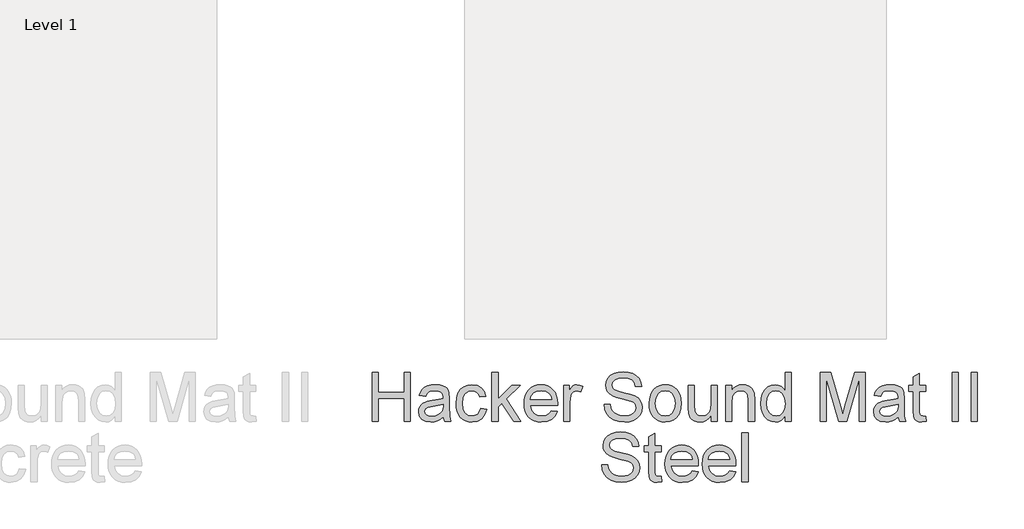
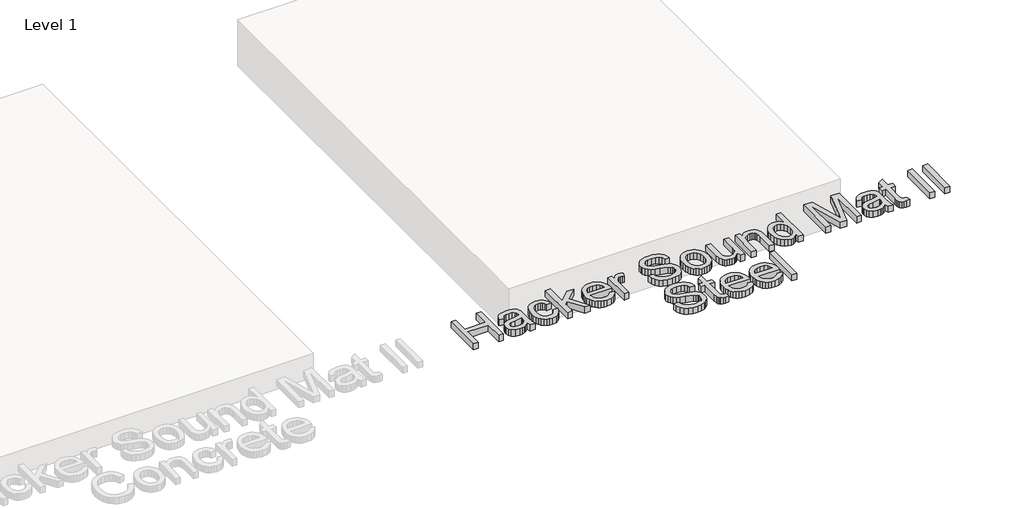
# One storey, part 3 of 3: 1 proxy.
"""IFC4 building model written with IfcOpenShell, lengths in millimetres."""

from ifc_helpers import new_model, si_unit, origin, origin_with_axes, place, context, project, spatial, polyline, outline, extrude, element, save

model = new_model("IFC4")

# Units and contexts
model_context = context("Model", 3, world=origin())
ifc_project = project(units=[si_unit("LENGTHUNIT", "METRE", prefix="MILLI")], contexts=[model_context])

# Site, building, storey
site = spatial("IfcSite", under=ifc_project)
building = spatial("IfcBuilding", under=site)
storey = spatial("IfcBuildingStorey", under=building, Name="Level 1", Elevation=0.0)

# Proxy
placement = place(None, origin())
element("IfcBuildingElementProxy", 1, Name="600mm Arial", ObjectType="600mm Arial", at=placement, inside=storey, context=model_context, shape_type="SweptSolid", body=[
    extrude(outline(polyline([(11235.1560774, -15959.6490726), (11235.1560774, -15659.5383034), (11272.6699235, -15659.5383034), (11272.6699235, -15781.4583034), (11432.1037697, -15781.4583034), (11432.1037697, -15659.5383034), (11469.6176159, -15659.5383034), (11469.6176159, -15959.6490726), (11432.1037697, -15959.6490726), (11432.1037697, -15818.9721496), (11272.6699235, -15818.9721496), (11272.6699235, -15959.6490726), (11235.1560774, -15959.6490726)])), origin_with_axes(), (0.0, 0.0, 1.0), 50.8),
    extrude(outline(polyline([(11671.2545389, -15931.513688), (11653.3310534, -15946.8819092), (11634.8763659, -15956.9381111), (11615.4691784, -15962.4882553), (11594.6881928, -15964.3383034), (11563.3381207, -15959.8871976), (11540.2125197, -15946.5338803), (11525.9524957, -15926.2566207), (11521.1991543, -15901.033688), (11522.9942505, -15885.4822938), (11528.3795389, -15871.3596496), (11536.686438, -15859.2702265), (11547.2463659, -15849.8184957), (11573.5133851, -15837.5092649), (11605.9716543, -15831.8675342), (11644.3280966, -15825.9327265), (11671.0347312, -15818.9721496), (11671.2545389, -15810.6194572), (11668.6717985, -15793.877438), (11660.9235774, -15782.923688), (11643.5954043, -15774.7908034), (11619.4531928, -15772.0798419), (11597.1060774, -15773.8840967), (11581.4997312, -15779.2968611), (11570.8573755, -15789.3072697), (11563.4022312, -15804.9044572), (11525.8883851, -15800.2152265), (11532.400188, -15779.6998419), (11542.1175197, -15763.5806111), (11555.947087, -15751.253063), (11574.7955966, -15742.1127265), (11597.8479284, -15736.4526784), (11624.288962, -15734.5659957), (11649.6492745, -15736.2328707), (11669.7525197, -15741.2334957), (11684.9100918, -15748.7527505), (11695.4333851, -15757.9755149), (11702.4122793, -15769.378039), (11706.9366543, -15783.4365726), (11708.7683851, -15816.261188), (11708.7683851, -15862.933688), (11710.6733851, -15928.1066688), (11718.1468466, -15959.6490726), (11680.6330005, -15959.6490726), (11671.2545389, -15931.513688)]), holes=[polyline([(11671.2545389, -15856.4859957), (11610.7341543, -15867.9892649), (11578.4590582, -15874.0706111), (11563.8418466, -15883.9619572), (11558.7130005, -15898.3959957), (11561.5063899, -15909.5512361), (11569.8865582, -15918.6915726), (11583.6703322, -15924.7912361), (11602.6745389, -15926.8244572), (11622.8235774, -15924.5805871), (11640.6280005, -15917.8489765), (11655.0620389, -15907.9301544), (11665.0999235, -15896.1246496), (11669.5510293, -15883.9619572), (11671.0347312, -15867.1100342), (11671.2545389, -15856.4859957)])]), origin_with_axes(), (0.0, 0.0, 1.0), 50.8),
    extrude(outline(polyline([(11901.0268466, -15879.9321496), (11938.5406928, -15884.6213803), (11928.0815101, -15917.9863563), (11908.4270389, -15943.2001303), (11881.4273274, -15959.0537601), (11848.9324235, -15964.3383034), (11827.892706, -15962.4951243), (11809.0281687, -15956.9655871), (11792.3388118, -15947.7496916), (11777.8246351, -15934.847438), (11766.0763719, -15918.5015306), (11757.6847553, -15898.9546736), (11752.6497853, -15876.2068671), (11750.971462, -15850.2581111), (11753.8381207, -15816.8748178), (11762.4380966, -15787.9426303), (11776.9087697, -15764.5789044), (11797.3875197, -15747.9009957), (11821.8869187, -15737.8997457), (11848.4195389, -15734.5659957), (11880.1176399, -15739.1453226), (11905.4596351, -15752.8833034), (11923.639563, -15775.0472457), (11933.851462, -15804.9044572), (11896.3376159, -15809.593688), (11889.532736, -15793.2271736), (11878.9361735, -15781.494938), (11865.1340822, -15774.4336159), (11848.7126159, -15772.0798419), (11824.4696591, -15776.7141207), (11805.2273274, -15790.6169572), (11792.670813, -15814.5393611), (11788.4853082, -15849.2323419), (11792.5792264, -15884.392414), (11804.8609812, -15908.3972457), (11823.7552841, -15922.2176544), (11847.6868466, -15926.8244572), (11867.1123514, -15923.9486399), (11883.0392505, -15915.321188), (11894.6249476, -15900.7222938), (11901.0268466, -15879.9321496)])), origin_with_axes(), (0.0, 0.0, 1.0), 50.8),
    extrude(outline(polyline([(11971.3653082, -15959.6490726), (11971.3653082, -15659.5383034), (12008.8791543, -15659.5383034), (12008.8791543, -15820.8038803), (12092.9922312, -15739.2552265), (12144.8668466, -15739.2552265), (12059.7280005, -15821.8296496), (12149.5560774, -15959.6490726), (12105.7410774, -15959.6490726), (12032.8381928, -15847.9134957), (12008.8791543, -15871.1398419), (12008.8791543, -15959.6490726), (11971.3653082, -15959.6490726)])), origin_with_axes(), (0.0, 0.0, 1.0), 50.8),
    extrude(outline(polyline([(12336.6856928, -15893.9998419), (12373.4668466, -15898.6890726), (12360.2142745, -15926.4031592), (12339.0669428, -15947.1200342), (12310.5011014, -15960.0337361), (12274.9930005, -15964.3383034), (12251.7162817, -15962.4813863), (12230.9765101, -15956.9106351), (12212.7736856, -15947.6260498), (12197.1078082, -15934.6276303), (12184.5100798, -15918.2771435), (12175.5117024, -15898.9363563), (12170.112676, -15876.6052685), (12168.3130005, -15851.2838803), (12170.1309933, -15825.1038683), (12175.5849716, -15802.0286399), (12184.6749356, -15782.0581952), (12197.4008851, -15765.1925342), (12213.0255485, -15751.7934236), (12230.8116543, -15742.2226303), (12250.7592024, -15736.4801544), (12272.8681928, -15734.5659957), (12294.2650978, -15736.475575), (12313.6150437, -15742.204313), (12330.9180305, -15751.7522096), (12346.1740582, -15765.1192649), (12358.6275377, -15781.9482914), (12367.5228803, -15801.8821015), (12372.8600858, -15824.9206952), (12374.6391543, -15851.0640726), (12374.4193466, -15861.1752265), (12205.8268466, -15861.1752265), (12212.3203322, -15889.2556592), (12227.4046351, -15909.8992649), (12249.1747553, -15922.5931592), (12275.7256928, -15926.8244572), (12295.6915582, -15924.8645053), (12312.5068466, -15918.9846496), (12326.1715582, -15908.8185438), (12336.6856928, -15893.9998419)]), holes=[polyline([(12205.8268466, -15823.6613803), (12337.1253082, -15823.6613803), (12332.0514139, -15803.8420534), (12322.1051159, -15789.6644572), (12300.2342505, -15776.4759957), (12272.7216543, -15772.0798419), (12247.434611, -15775.5876063), (12226.5254043, -15786.1108996), (12211.9906207, -15802.5140486), (12205.8268466, -15823.6613803)])]), origin_with_axes(), (0.0, 0.0, 1.0), 50.8),
    extrude(outline(polyline([(12412.1530005, -15959.6490726), (12412.1530005, -15739.2552265), (12444.9776159, -15739.2552265), (12444.9776159, -15771.8600342), (12457.1036735, -15752.9565726), (12468.2772312, -15741.8196496), (12479.4874235, -15736.3794092), (12491.7233851, -15734.5659957), (12510.4070389, -15737.4601303), (12529.3837697, -15746.1425342), (12516.8547312, -15779.7731111), (12503.6662697, -15774.0031592), (12490.4778082, -15772.0798419), (12479.2767745, -15773.9298899), (12469.2663659, -15779.4800342), (12461.1792745, -15788.3089765), (12455.7481928, -15799.9954188), (12451.1871832, -15820.9504188), (12449.6668466, -15843.8104188), (12449.6668466, -15959.6490726), (12412.1530005, -15959.6490726)])), origin_with_axes(), (0.0, 0.0, 1.0), 50.8),
    extrude(outline(polyline([(12660.6822312, -15856.4859957), (12698.1960774, -15856.4859957), (12702.5006447, -15877.3036159), (12710.2855005, -15894.0364765), (12722.4298755, -15907.3165246), (12739.8130005, -15917.7757072), (12761.0610774, -15924.5622697), (12784.8003082, -15926.8244572), (12805.7003562, -15925.111789), (12823.9993466, -15919.9737842), (12838.8272072, -15911.8408996), (12849.3138659, -15901.1435919), (12855.5509091, -15888.8618371), (12857.6299235, -15875.9756111), (12856.0729524, -15863.4190967), (12851.4020389, -15852.5660919), (12841.9136735, -15843.3066928), (12825.9043466, -15835.5309957), (12771.2821351, -15821.2068611), (12735.4260053, -15811.7276544), (12712.4835774, -15802.7063803), (12693.8090822, -15790.0857553), (12680.5748274, -15774.7908034), (12672.6892264, -15757.1512361), (12670.0606928, -15737.4967649), (12673.3120149, -15715.5251544), (12683.0659812, -15695.0372457), (12699.0661495, -15677.672438), (12721.0560774, -15665.0701303), (12747.4513178, -15657.4043371), (12776.6674235, -15654.8490726), (12808.3197312, -15657.5233996), (12836.0155005, -15665.5463803), (12858.7655966, -15678.7531592), (12875.5808851, -15696.9788803), (12886.2232409, -15719.0878707), (12890.4545389, -15743.9444572), (12852.9406928, -15743.9444572), (12846.0533851, -15721.5607072), (12831.6926159, -15705.4048419), (12809.2539139, -15695.6233996), (12778.1328082, -15692.3629188), (12746.2790101, -15695.5867649), (12724.426462, -15705.2583034), (12711.7875197, -15719.4908515), (12707.5745389, -15736.3977265), (12710.5602601, -15750.8134476), (12719.5174235, -15762.4083034), (12740.6922312, -15772.7758996), (12780.7705005, -15783.3633034), (12822.1309812, -15793.4195053), (12847.1524235, -15802.1934957), (12868.5378803, -15815.8032553), (12883.4573274, -15832.6002265), (12892.2221591, -15852.4012361), (12895.1437697, -15875.0231111), (12891.7825437, -15898.1487121), (12881.6988659, -15919.9005149), (12865.3048755, -15938.6208034), (12843.012712, -15952.6518611), (12816.2053322, -15961.4166928), (12786.2656928, -15964.3383034), (12749.5120149, -15961.1877265), (12719.2609812, -15951.7359957), (12695.164563, -15935.9464765), (12676.8747312, -15913.7825342), (12665.133337, -15886.7828226), (12660.6822312, -15856.4859957)])), origin_with_axes(), (0.0, 0.0, 1.0), 50.8),
    extrude(outline(polyline([(12937.3468466, -15849.4521496), (12939.3754885, -15820.9092048), (12945.4614139, -15796.3136399), (12955.6046231, -15775.6654548), (12969.8051159, -15758.9646496), (12984.1017745, -15748.2902385), (12999.8821351, -15740.6656592), (13017.1461976, -15736.0909116), (13035.893962, -15734.5659957), (13056.59023, -15736.4229128), (13075.3036495, -15741.993664), (13092.0342204, -15751.2782493), (13106.7819428, -15764.2766688), (13118.8187036, -15780.549307), (13127.4163899, -15799.6565486), (13132.5750017, -15821.5983935), (13134.2945389, -15846.3748419), (13131.2538659, -15884.2733515), (13122.1318466, -15913.1231111), (13107.1940822, -15934.7283755), (13086.7061735, -15950.8933996), (13062.3716303, -15960.9770774), (13035.893962, -15964.3383034), (13014.8954584, -15962.4882553), (12996.0080245, -15956.9381111), (12979.2316603, -15947.6878707), (12964.5663659, -15934.7375342), (12952.6578262, -15918.3069092), (12944.1517264, -15898.6158034), (12939.0480666, -15875.6642169), (12937.3468466, -15849.4521496)]), holes=[polyline([(12974.8606928, -15849.3788803), (12979.2018947, -15883.3300101), (12992.2255005, -15907.5180149), (13011.8250197, -15921.9978467), (13035.893962, -15926.8244572), (13059.8530005, -15921.9703707), (13079.4158851, -15907.4081111), (13092.4394909, -15882.8995534), (13096.7806928, -15848.2065726), (13092.4120149, -15815.2445774), (13079.3059812, -15791.3862842), (13059.7156207, -15776.9064524), (13035.893962, -15772.0798419), (13011.8250197, -15776.8881351), (12992.2255005, -15791.3130149), (12979.2018947, -15815.4460678), (12974.8606928, -15849.3788803)])]), origin_with_axes(), (0.0, 0.0, 1.0), 50.8),
    extrude(outline(polyline([(13317.1745389, -15959.6490726), (13317.1745389, -15921.7688803), (13303.6014139, -15940.3930029), (13287.7935774, -15953.6959476), (13269.7510293, -15961.6777145), (13249.4737697, -15964.3383034), (13231.2022553, -15962.469938), (13214.1946351, -15956.8648419), (13199.9254524, -15948.4388803), (13189.8692505, -15938.1079188), (13178.6956928, -15910.4854188), (13176.4976159, -15875.6092649), (13176.4976159, -15739.2552265), (13214.011462, -15739.2552265), (13214.011462, -15857.9513803), (13216.2828082, -15896.1979188), (13221.7505245, -15908.9559236), (13231.1198274, -15918.654938), (13243.7679284, -15924.7820774), (13259.0720389, -15926.8244572), (13275.2553803, -15924.7362842), (13290.3946351, -15918.4717649), (13302.8778803, -15908.6078947), (13311.0931928, -15895.7216688), (13315.6542024, -15878.0729428), (13317.1745389, -15853.9215726), (13317.1745389, -15739.2552265), (13354.6883851, -15739.2552265), (13354.6883851, -15959.6490726), (13317.1745389, -15959.6490726)])), origin_with_axes(), (0.0, 0.0, 1.0), 50.8),
    extrude(outline(polyline([(13406.2699235, -15959.6490726), (13406.2699235, -15739.2552265), (13443.7837697, -15739.2552265), (13443.7837697, -15770.0283034), (13456.8165341, -15754.5135438), (13472.4686735, -15743.4315726), (13490.740188, -15736.7823899), (13511.6310774, -15734.5659957), (13530.1223995, -15736.3519332), (13547.0567505, -15741.7097457), (13561.1793947, -15749.9708515), (13571.2355966, -15760.4666688), (13582.4824235, -15788.0525342), (13584.4606928, -15824.3208034), (13584.4606928, -15959.6490726), (13546.9468466, -15959.6490726), (13546.9468466, -15829.3763803), (13542.623962, -15796.1854188), (13536.643361, -15786.3032313), (13527.3473274, -15778.637438), (13515.4319187, -15773.7192409), (13501.5931928, -15772.0798419), (13479.6215822, -15775.7616207), (13460.8921351, -15786.8069572), (13453.4072252, -15795.823652), (13448.060861, -15808.1466207), (13443.7837697, -15842.7113803), (13443.7837697, -15959.6490726), (13406.2699235, -15959.6490726)])), origin_with_axes(), (0.0, 0.0, 1.0), 50.8),
    extrude(outline(polyline([(13772.0299235, -15959.6490726), (13772.0299235, -15924.2600342), (13760.8059933, -15941.794277), (13747.2099716, -15954.3187361), (13731.2418586, -15961.8334116), (13712.9016543, -15964.3383034), (13688.6495389, -15960.7114765), (13666.448962, -15949.8309957), (13647.6554043, -15932.4570294), (13633.6243466, -15909.3497457), (13624.8869909, -15881.4433274), (13621.9745389, -15849.6719572), (13624.6580245, -15818.2944092), (13632.7084812, -15789.9575342), (13646.1167505, -15766.2732553), (13664.8736735, -15748.8534957), (13687.5596591, -15738.1378707), (13712.7551159, -15734.5659957), (13731.1090582, -15737.1212601), (13747.3381928, -15744.7870534), (13761.0944909, -15756.5376063), (13772.0299235, -15771.3471496), (13772.0299235, -15659.5383034), (13809.5437697, -15659.5383034), (13809.5437697, -15959.6490726), (13772.0299235, -15959.6490726)]), holes=[polyline([(13659.4883851, -15849.5254188), (13663.7196832, -15883.4582313), (13676.4135774, -15907.5912842), (13694.8591062, -15922.016164), (13716.3453082, -15926.8244572), (13737.8223514, -15922.2359717), (13755.8007889, -15908.4705149), (13767.9726399, -15885.2716447), (13772.0299235, -15852.3829188), (13767.8993707, -15816.4260438), (13755.507712, -15791.496188), (13737.0713418, -15776.9339284), (13714.8066543, -15772.0798419), (13693.1006447, -15776.7415967), (13675.3145389, -15790.7268611), (13663.4449235, -15814.7500101), (13659.4883851, -15849.5254188)])]), origin_with_axes(), (0.0, 0.0, 1.0), 50.8),
    extrude(outline(polyline([(13987.7345389, -15959.6490726), (13987.7345389, -15659.5383034), (14052.2847312, -15659.5383034), (14113.6843466, -15871.0665726), (14126.0668466, -15915.2479188), (14139.4751159, -15867.4031111), (14199.848962, -15659.5383034), (14264.3991543, -15659.5383034), (14264.3991543, -15959.6490726), (14226.8853082, -15959.6490726), (14226.8853082, -15697.0521496), (14151.4912697, -15959.6490726), (14100.6424235, -15959.6490726), (14025.2483851, -15697.0521496), (14025.2483851, -15959.6490726), (13987.7345389, -15959.6490726)])), origin_with_axes(), (0.0, 0.0, 1.0), 50.8),
    extrude(outline(polyline([(14466.0360774, -15931.513688), (14448.1125918, -15946.8819092), (14429.6579043, -15956.9381111), (14410.2507168, -15962.4882553), (14389.4697312, -15964.3383034), (14358.1196591, -15959.8871976), (14334.9940582, -15946.5338803), (14320.7340341, -15926.2566207), (14315.9806928, -15901.033688), (14317.7757889, -15885.4822938), (14323.1610774, -15871.3596496), (14331.4679764, -15859.2702265), (14342.0279043, -15849.8184957), (14368.2949235, -15837.5092649), (14400.7531928, -15831.8675342), (14439.1096351, -15825.9327265), (14465.8162697, -15818.9721496), (14466.0360774, -15810.6194572), (14463.453337, -15793.877438), (14455.7051159, -15782.923688), (14438.3769428, -15774.7908034), (14414.2347312, -15772.0798419), (14391.8876159, -15773.8840967), (14376.2812697, -15779.2968611), (14365.6389139, -15789.3072697), (14358.1837697, -15804.9044572), (14320.6699235, -15800.2152265), (14327.1817264, -15779.6998419), (14336.8990582, -15763.5806111), (14350.7286255, -15751.253063), (14369.5771351, -15742.1127265), (14392.6294668, -15736.4526784), (14419.0705005, -15734.5659957), (14444.430813, -15736.2328707), (14464.5340582, -15741.2334957), (14479.6916303, -15748.7527505), (14490.2149235, -15757.9755149), (14497.1938178, -15769.378039), (14501.7181928, -15783.4365726), (14503.5499235, -15816.261188), (14503.5499235, -15862.933688), (14505.4549235, -15928.1066688), (14512.9283851, -15959.6490726), (14475.4145389, -15959.6490726), (14466.0360774, -15931.513688)]), holes=[polyline([(14466.0360774, -15856.4859957), (14405.5156928, -15867.9892649), (14373.2405966, -15874.0706111), (14358.6233851, -15883.9619572), (14353.4945389, -15898.3959957), (14356.2879284, -15909.5512361), (14364.6680966, -15918.6915726), (14378.4518707, -15924.7912361), (14397.4560774, -15926.8244572), (14417.6051159, -15924.5805871), (14435.4095389, -15917.8489765), (14449.8435774, -15907.9301544), (14459.881462, -15896.1246496), (14464.3325678, -15883.9619572), (14465.8162697, -15867.1100342), (14466.0360774, -15856.4859957)])]), origin_with_axes(), (0.0, 0.0, 1.0), 50.8),
    extrude(outline(polyline([(14634.8483851, -15928.3631111), (14639.5376159, -15960.7481111), (14611.4755005, -15964.3383034), (14593.469587, -15962.7813322), (14580.0430005, -15958.1104188), (14570.5546351, -15950.9117169), (14564.3633851, -15941.7713803), (14560.9563659, -15926.0734476), (14559.8206928, -15899.2019572), (14559.8206928, -15776.7690726), (14531.6853082, -15776.7690726), (14531.6853082, -15739.2552265), (14559.8206928, -15739.2552265), (14559.8206928, -15685.6954188), (14597.3345389, -15663.6413803), (14597.3345389, -15739.2552265), (14634.8483851, -15739.2552265), (14634.8483851, -15776.7690726), (14597.3345389, -15776.7690726), (14597.3345389, -15898.1029188), (14599.3128082, -15917.4459957), (14605.7238659, -15924.2966688), (14618.5093466, -15926.8244572), (14634.8483851, -15928.3631111)])), origin_with_axes(), (0.0, 0.0, 1.0), 50.8),
    extrude(outline(polyline([(14798.971462, -15959.6490726), (14798.971462, -15659.5383034), (14836.4853082, -15659.5383034), (14836.4853082, -15959.6490726), (14798.971462, -15959.6490726)])), origin_with_axes(), (0.0, 0.0, 1.0), 50.8),
    extrude(outline(polyline([(14916.2022312, -15959.6490726), (14916.2022312, -15659.5383034), (14953.7160774, -15659.5383034), (14953.7160774, -15959.6490726), (14916.2022312, -15959.6490726)])), origin_with_axes(), (0.0, 0.0, 1.0), 50.8),
    extrude(outline(polyline([(12644.2699235, -16226.9352265), (12681.7837697, -16226.9352265), (12686.088337, -16247.7528467), (12693.8731928, -16264.4857072), (12706.0175678, -16277.7657553), (12723.4006928, -16288.224938), (12744.6487697, -16295.0115005), (12768.3880005, -16297.273688), (12789.2880485, -16295.5610197), (12807.5870389, -16290.4230149), (12822.4148995, -16282.2901303), (12832.9015582, -16271.5928226), (12839.1386014, -16259.3110678), (12841.2176159, -16246.4248419), (12839.6606447, -16233.8683274), (12834.9897312, -16223.0153226), (12825.5013659, -16213.7559236), (12809.4920389, -16205.9802265), (12754.8698274, -16191.6560919), (12719.0136976, -16182.1768851), (12696.0712697, -16173.1556111), (12677.3967745, -16160.5349861), (12664.1625197, -16145.2400342), (12656.2769187, -16127.6004669), (12653.6483851, -16107.9459957), (12656.8997072, -16085.9743851), (12666.6536735, -16065.4864765), (12682.6538418, -16048.1216688), (12704.6437697, -16035.5193611), (12731.0390101, -16027.8535678), (12760.2551159, -16025.2983034), (12791.9074235, -16027.9726303), (12819.6031928, -16035.9956111), (12842.3532889, -16049.2023899), (12859.1685774, -16067.4281111), (12869.8109332, -16089.5371015), (12874.0422312, -16114.393688), (12836.5283851, -16114.393688), (12829.6410774, -16092.009938), (12815.2803082, -16075.8540726), (12792.8416062, -16066.0726303), (12761.7205005, -16062.8121496), (12729.8667024, -16066.0359957), (12708.0141543, -16075.7075342), (12695.375212, -16089.9400822), (12691.1622312, -16106.8469572), (12694.1479524, -16121.2626784), (12703.1051159, -16132.8575342), (12724.2799235, -16143.2251303), (12764.3581928, -16153.8125342), (12805.7186735, -16163.8687361), (12830.7401159, -16172.6427265), (12852.1255726, -16186.2524861), (12867.0450197, -16203.0494572), (12875.8098514, -16222.8504669), (12878.731462, -16245.4723419), (12875.370236, -16268.5979428), (12865.2865582, -16290.3497457), (12848.8925678, -16309.0700342), (12826.6004043, -16323.1010919), (12799.7930245, -16331.8659236), (12769.8533851, -16334.7875342), (12733.0997072, -16331.6369572), (12702.8486735, -16322.1852265), (12678.7522553, -16306.3957072), (12660.4624235, -16284.2317649), (12648.7210293, -16257.2320534), (12644.2699235, -16226.9352265)])), origin_with_axes(), (0.0, 0.0, 1.0), 50.8),
    extrude(outline(polyline([(13010.0299235, -16298.8123419), (13014.7191543, -16331.1973419), (12986.6570389, -16334.7875342), (12968.6511255, -16333.230563), (12955.2245389, -16328.5596496), (12945.7361735, -16321.3609476), (12939.5449235, -16312.2206111), (12936.1379043, -16296.5226784), (12935.0022312, -16269.651188), (12935.0022312, -16147.2183034), (12906.8668466, -16147.2183034), (12906.8668466, -16109.7044572), (12935.0022312, -16109.7044572), (12935.0022312, -16056.1446496), (12972.5160774, -16034.0906111), (12972.5160774, -16109.7044572), (13010.0299235, -16109.7044572), (13010.0299235, -16147.2183034), (12972.5160774, -16147.2183034), (12972.5160774, -16268.5521496), (12974.4943466, -16287.8952265), (12980.9054043, -16294.7458996), (12993.6908851, -16297.273688), (13010.0299235, -16298.8123419)])), origin_with_axes(), (0.0, 0.0, 1.0), 50.8),
    extrude(outline(polyline([(13201.8487697, -16264.4490726), (13238.6299235, -16269.1383034), (13225.3773514, -16296.8523899), (13204.2300197, -16317.5692649), (13175.6641784, -16330.4829669), (13140.1560774, -16334.7875342), (13116.8793586, -16332.9306171), (13096.139587, -16327.3598659), (13077.9367625, -16318.0752806), (13062.2708851, -16305.0768611), (13049.6731567, -16288.7263743), (13040.6747793, -16269.3855871), (13035.2757529, -16247.0544993), (13033.4760774, -16221.7331111), (13035.2940702, -16195.5530991), (13040.7480485, -16172.4778707), (13049.8380125, -16152.507426), (13062.563962, -16135.6417649), (13078.1886255, -16122.2426544), (13095.9747312, -16112.6718611), (13115.9222793, -16106.9293851), (13138.0312697, -16105.0152265), (13159.4281747, -16106.9248058), (13178.7781207, -16112.6535438), (13196.0811074, -16122.2014404), (13211.3371351, -16135.5684957), (13223.7906147, -16152.3975221), (13232.6859572, -16172.3313322), (13238.0231627, -16195.369926), (13239.8022312, -16221.5133034), (13239.5824235, -16231.6244572), (13070.9899235, -16231.6244572), (13077.4834091, -16259.7048899), (13092.567712, -16280.3484957), (13114.3378322, -16293.0423899), (13140.8887697, -16297.273688), (13160.8546351, -16295.3137361), (13177.6699235, -16289.4338803), (13191.3346351, -16279.2677746), (13201.8487697, -16264.4490726)]), holes=[polyline([(13070.9899235, -16194.1106111), (13202.2883851, -16194.1106111), (13197.2144909, -16174.2912842), (13187.2681928, -16160.113688), (13165.3973274, -16146.9252265), (13137.8847312, -16142.5290726), (13112.597688, -16146.0368371), (13091.6884812, -16156.5601303), (13077.1536976, -16172.9632794), (13070.9899235, -16194.1106111)])]), origin_with_axes(), (0.0, 0.0, 1.0), 50.8),
    extrude(outline(polyline([(13431.6210774, -16264.4490726), (13468.4022312, -16269.1383034), (13455.1496591, -16296.8523899), (13434.0023274, -16317.5692649), (13405.436486, -16330.4829669), (13369.9283851, -16334.7875342), (13346.6516663, -16332.9306171), (13325.9118947, -16327.3598659), (13307.7090702, -16318.0752806), (13292.0431928, -16305.0768611), (13279.4454644, -16288.7263743), (13270.447087, -16269.3855871), (13265.0480606, -16247.0544993), (13263.2483851, -16221.7331111), (13265.0663779, -16195.5530991), (13270.5203562, -16172.4778707), (13279.6103202, -16152.507426), (13292.3362697, -16135.6417649), (13307.9609332, -16122.2426544), (13325.7470389, -16112.6718611), (13345.694587, -16106.9293851), (13367.8035774, -16105.0152265), (13389.2004824, -16106.9248058), (13408.5504284, -16112.6535438), (13425.8534151, -16122.2014404), (13441.1094428, -16135.5684957), (13453.5629223, -16152.3975221), (13462.4582649, -16172.3313322), (13467.7954704, -16195.369926), (13469.5745389, -16221.5133034), (13469.3547312, -16231.6244572), (13300.7622312, -16231.6244572), (13307.2557168, -16259.7048899), (13322.3400197, -16280.3484957), (13344.1101399, -16293.0423899), (13370.6610774, -16297.273688), (13390.6269428, -16295.3137361), (13407.4422312, -16289.4338803), (13421.1069428, -16279.2677746), (13431.6210774, -16264.4490726)]), holes=[polyline([(13300.7622312, -16194.1106111), (13432.0606928, -16194.1106111), (13426.9867985, -16174.2912842), (13417.0405005, -16160.113688), (13395.1696351, -16146.9252265), (13367.6570389, -16142.5290726), (13342.3699957, -16146.0368371), (13321.4607889, -16156.5601303), (13306.9260053, -16172.9632794), (13300.7622312, -16194.1106111)])]), origin_with_axes(), (0.0, 0.0, 1.0), 50.8),
    extrude(outline(polyline([(13507.0883851, -16330.0983034), (13507.0883851, -16029.9875342), (13544.6022312, -16029.9875342), (13544.6022312, -16330.0983034), (13507.0883851, -16330.0983034)])), origin_with_axes(), (0.0, 0.0, 1.0), 50.8),
])

save(model, "model.ifc")
